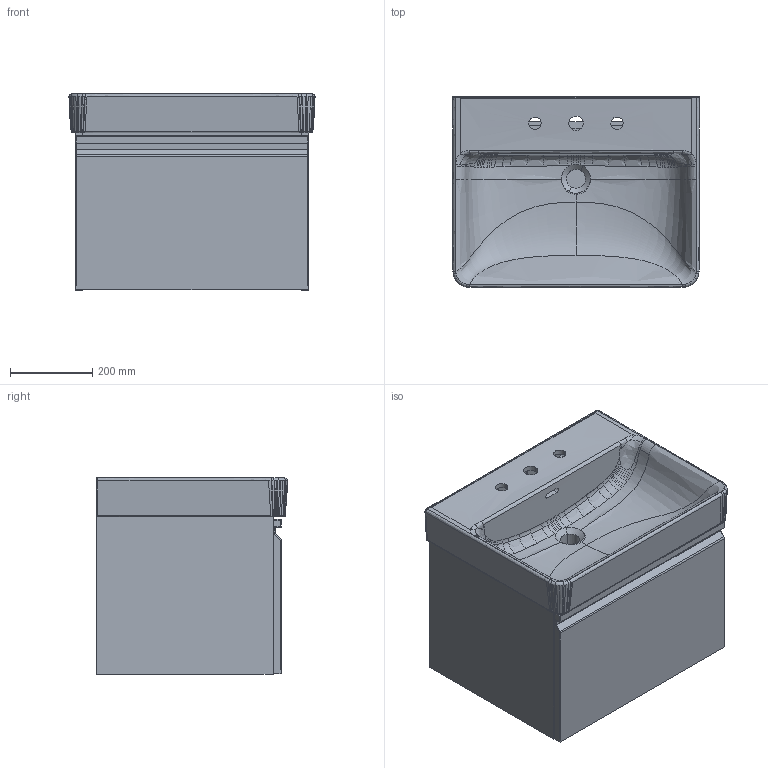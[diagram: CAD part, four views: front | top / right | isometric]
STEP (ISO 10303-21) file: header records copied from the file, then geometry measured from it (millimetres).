
FILE_DESCRIPTION(/* description */ (''),/* implementation_level */ '2;1');
FILE_NAME(/* name */ '3D2CE5~1',/* time_stamp */ '2018-05-14T09:03:15+02:00',/* author */ (''),/* organization */ (''),/* preprocessor_version */ 'ST-DEVELOPER v15',/* originating_system */ '',/* authorisation */ '');
FILE_SCHEMA (('AUTOMOTIVE_DESIGN'));
Products named in the file (1): Document
Bounding box: 599.94 x 464.97 x 478 mm (x, y, z)
Volume: 24565195.3 mm3; surface area: 4606638.8 mm2
Topology: 29 solids, 30 shells, 1863 faces, 4948 edges, 3165 vertices
Faces by surface type: bspline 1056, plane 807
Entity records: 155063 total; most frequent: CARTESIAN_POINT 124523, ORIENTED_EDGE 9854, EDGE_CURVE 4942, B_SPLINE_CURVE_WITH_KNOTS 3450, VERTEX_POINT 3165, EDGE_LOOP 2029, ADVANCED_FACE 1863, FACE_OUTER_BOUND 1863
